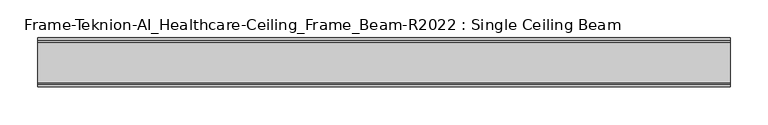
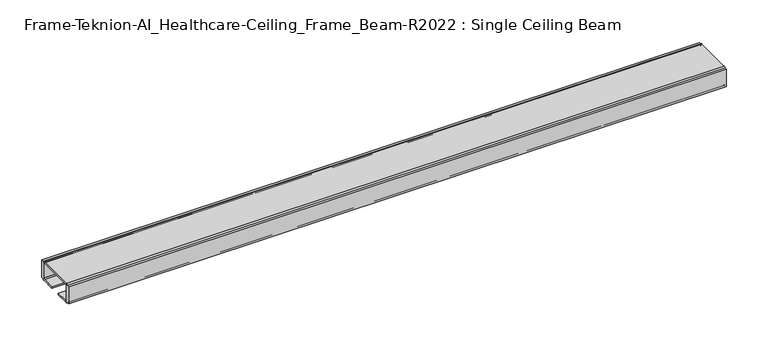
"""IFC4 building model written with IfcOpenShell, lengths in millimetres: furniture geometry, Frame-Teknion-AI_Healthcare-Ceiling_Frame_Beam-R2022 : Single Ceiling Beam."""

import ifcopenshell
import ifcopenshell.guid

model = None  # the IFC model being written
_history = None  # IfcOwnerHistory: only IFC2X3 demands one
_inside = {}  # id of a spatial element -> (the spatial element, [elements in it])
_under = {}  # id of a project, library or spatial element -> (it, [spatial elements below it])
_declared = {}  # id of a project -> (the project, [libraries it declares])
_typed = {}  # id of a type object -> (the type object, [elements of that type])
_made_of = {}  # id of a material, layer set ... -> (it, [elements and type objects made of it])


def new_model(schema):
    """Start an empty IFC model of exactly this schema.

    Asked for "IFC4X3", IfcOpenShell would pick the latest addendum, in which some entities
    have other attributes; the version numbers below select the first issue.
    IFC2X3 requires an IfcOwnerHistory on every rooted entity: one is made here for all.
    """
    global model, _history
    if schema == "IFC4X3":
        model = ifcopenshell.file(schema_version=(4, 3, 0, 0))
    else:
        model = ifcopenshell.file(schema=schema)
    _inside.clear()
    _under.clear()
    _declared.clear()
    _typed.clear()
    _made_of.clear()
    _history = None
    if model.schema == "IFC2X3":
        org = make("IfcOrganization", Name="unknown")
        user = make(
            "IfcPersonAndOrganization",
            ThePerson=make("IfcPerson", FamilyName="unknown"),
            TheOrganization=org,
        )
        app = make(
            "IfcApplication",
            ApplicationDeveloper=org,
            Version="unknown",
            ApplicationFullName="unknown",
            ApplicationIdentifier="unknown",
        )
        _history = make(
            "IfcOwnerHistory",
            OwningUser=user,
            OwningApplication=app,
            ChangeAction="ADDED",
            CreationDate=0,
        )
    return model


def make(cls, **values):
    """One entity of the class cls with the attributes given. An attribute that is None is left unset."""
    return model.create_entity(
        cls, **{name: value for name, value in values.items() if value is not None}
    )


def rooted(cls, **values):
    """An entity with a GlobalId (a new one), such as an element, a storey or a relation."""
    return make(cls, GlobalId=ifcopenshell.guid.new(), OwnerHistory=_history, **values)


def si_unit(unit_type, name, prefix=None):
    """IfcSIUnit, for example si_unit("LENGTHUNIT", "METRE", prefix="MILLI")."""
    return make("IfcSIUnit", UnitType=unit_type, Prefix=prefix, Name=name)


def assignment(units):
    """IfcUnitAssignment: the units of a project."""
    return None if units is None else make("IfcUnitAssignment", Units=units)


def point(xyz):
    """IfcCartesianPoint."""
    return None if xyz is None else make("IfcCartesianPoint", Coordinates=xyz)


def direction(xyz):
    """IfcDirection."""
    return None if xyz is None else make("IfcDirection", DirectionRatios=xyz)


def frame(location, z_axis=None, x_axis=None):
    """IfcAxis2Placement3D, a coordinate frame: its origin and axes. An axis left out is left unset."""
    return make(
        "IfcAxis2Placement3D",
        Location=point(location),
        Axis=direction(z_axis),
        RefDirection=direction(x_axis),
    )


def frame_2d(location, x_axis=None):
    """IfcAxis2Placement2D, a coordinate frame in the plane: its origin and x axis."""
    return make(
        "IfcAxis2Placement2D", Location=point(location), RefDirection=direction(x_axis)
    )


def origin():
    """The frame at (0, 0, 0) with its axes left unset."""
    return frame((0.0, 0.0, 0.0))


def place(relative_to, where):
    """IfcLocalPlacement: puts the frame where relative to a parent placement (None: the world)."""
    return make(
        "IfcLocalPlacement", PlacementRelTo=relative_to, RelativePlacement=where
    )


def context(
    kind, dimensions, precision=None, world=None, true_north=None, identifier=None
):
    """IfcGeometricRepresentationContext, for example the 3D "Model" context."""
    return make(
        "IfcGeometricRepresentationContext",
        ContextIdentifier=identifier,
        ContextType=kind,
        CoordinateSpaceDimension=dimensions,
        Precision=precision,
        WorldCoordinateSystem=world,
        TrueNorth=true_north,
    )


def project(units=None, contexts=None):
    """IfcProject with its units and contexts."""
    return rooted(
        "IfcProject",
        Name="project",
        RepresentationContexts=contexts,
        UnitsInContext=assignment(units),
    )


def spatial(cls, under=None, at=None, **own):
    """A site, building, storey or space (cls), placed at a placement, below another one or the project."""
    s = rooted(cls, ObjectPlacement=at, **own)
    if under is not None:
        _under.setdefault(under.id(), (under, []))[1].append(s)
    return s


def polyline(points):
    """IfcPolyline through the points."""
    return make("IfcPolyline", Points=[point(p) for p in points])


def circle_curve(where, radius):
    """IfcCircle in the frame where."""
    return make("IfcCircle", Position=where, Radius=radius)


def trimmed(basis, trim1, trim2, sense, master):
    """IfcTrimmedCurve: the piece of a basis curve between two trims."""
    return make(
        "IfcTrimmedCurve",
        BasisCurve=basis,
        Trim1=trim1,
        Trim2=trim2,
        SenseAgreement=sense,
        MasterRepresentation=master,
    )


def segment(curve, same_sense, transition):
    """IfcCompositeCurveSegment."""
    return make(
        "IfcCompositeCurveSegment",
        Transition=transition,
        SameSense=same_sense,
        ParentCurve=curve,
    )


def composite_curve(segments, self_intersect=None):
    """IfcCompositeCurve: segments joined end to end."""
    return make("IfcCompositeCurve", Segments=segments, SelfIntersect=self_intersect)


def outline(outer, holes=None, kind="AREA"):
    """IfcArbitraryClosedProfileDef: a profile drawn as a closed curve; with holes, ...WithVoids."""
    if holes is None:
        return make("IfcArbitraryClosedProfileDef", ProfileType=kind, OuterCurve=outer)
    return make(
        "IfcArbitraryProfileDefWithVoids",
        ProfileType=kind,
        OuterCurve=outer,
        InnerCurves=holes,
    )


def extrude(swept, where, along, depth):
    """IfcExtrudedAreaSolid: the profile swept, set in the frame where, extruded along a direction by depth."""
    return make(
        "IfcExtrudedAreaSolid",
        SweptArea=swept,
        Position=where,
        ExtrudedDirection=direction(along),
        Depth=depth,
    )


def shape(context_of_items, identifier, shape_type, items):
    """IfcShapeRepresentation: the items that make up one representation, for example the "Body"."""
    return make(
        "IfcShapeRepresentation",
        ContextOfItems=context_of_items,
        RepresentationIdentifier=identifier,
        RepresentationType=shape_type,
        Items=items,
    )


def source(mapping_origin, context_of_items, identifier, shape_type, items):
    """IfcRepresentationMap: a shape defined once, which mapped items show again and again."""
    return make(
        "IfcRepresentationMap",
        MappingOrigin=mapping_origin,
        MappedRepresentation=shape(context_of_items, identifier, shape_type, items),
    )


def transform(
    local_origin,
    x_axis=None,
    y_axis=None,
    z_axis=None,
    scale=None,
    scale2=None,
    scale3=None,
    uniform=True,
):
    """IfcCartesianTransformationOperator3D, or its non-uniform kind. x_axis, y_axis, z_axis: its Axis1, 2, 3."""
    if uniform:
        return make(
            "IfcCartesianTransformationOperator3D",
            Axis1=direction(x_axis),
            Axis2=direction(y_axis),
            LocalOrigin=point(local_origin),
            Scale=scale,
            Axis3=direction(z_axis),
        )
    return make(
        "IfcCartesianTransformationOperator3DnonUniform",
        Axis1=direction(x_axis),
        Axis2=direction(y_axis),
        LocalOrigin=point(local_origin),
        Scale=scale,
        Axis3=direction(z_axis),
        Scale2=scale2,
        Scale3=scale3,
    )


def mapped(mapping_source, mapping_target):
    """IfcMappedItem: shows the shape of a source again, moved by a transform."""
    return make(
        "IfcMappedItem", MappingSource=mapping_source, MappingTarget=mapping_target
    )


def made_of(thing, what):
    """Note that an element or type object is made of a material, layer set ...; save() writes the relation."""
    if what is not None:
        _made_of.setdefault(what.id(), (what, []))[1].append(thing)
    return thing


def element(
    cls,
    number,
    at=None,
    inside=None,
    cuts=None,
    type_object=None,
    material=None,
    context=None,
    identifier="Body",
    shape_type=None,
    held_by="IfcProductDefinitionShape",
    body=None,
    shapes=None,
    **own,
):
    """One element of the class cls, such as IfcWall. Its Tag is "e" and its number.

    at: its placement. inside: the storey or other place that contains it. cuts: it is an
    opening in that element (IfcRelVoidsElement). A single representation is given by context,
    identifier, shape_type and body (its items); several are given by shapes. held_by: the class
    of the entity that holds the representations. save() writes the other relations.
    """
    e = rooted(cls, Tag="e%d" % number, ObjectPlacement=at, **own)
    if body is not None:
        shapes = [shape(context, identifier, shape_type, body)]
    if shapes is not None:
        e.Representation = make(held_by, Representations=shapes)
    if inside is not None:
        _inside.setdefault(inside.id(), (inside, []))[1].append(e)
    if cuts is not None:
        rooted(
            "IfcRelVoidsElement", RelatingBuildingElement=cuts, RelatedOpeningElement=e
        )
    if type_object is not None:
        _typed.setdefault(type_object.id(), (type_object, []))[1].append(e)
    return made_of(e, material)


def aggregate(whole, parts):
    """IfcRelAggregates: a whole, such as a stair, and the parts it consists of."""
    return rooted("IfcRelAggregates", RelatingObject=whole, RelatedObjects=parts)


def save(model, path):
    """Write the relations noted so far, then the file.

    IfcRelAggregates (storeys below a building ...), IfcRelContainedInSpatialStructure (elements
    in a storey), IfcRelDefinesByType, IfcRelAssociatesMaterial and IfcRelDeclares: one each for
    every whole, place, type object, material and project.
    """
    for whole, parts in _under.values():
        aggregate(whole, parts)
    for where, things in _inside.values():
        rooted(
            "IfcRelContainedInSpatialStructure",
            RelatedElements=things,
            RelatingStructure=where,
        )
    for kind, things in _typed.values():
        rooted("IfcRelDefinesByType", RelatedObjects=things, RelatingType=kind)
    for what, things in _made_of.values():
        rooted("IfcRelAssociatesMaterial", RelatedObjects=things, RelatingMaterial=what)
    for by, libraries in _declared.values():
        rooted("IfcRelDeclares", RelatingContext=by, RelatedDefinitions=libraries)
    model.write(path)


def frame_teknion_ai_healthcare_ceiling_frame_beam_r2022_single_cd011384(model_context):
    return source(origin(), model_context, "Body", "SweptSolid", [
        extrude(outline(composite_curve([segment(polyline([(-32.174996, 1573.5046), (-32.174996, 1598.9045998), (-28.999999, 1598.9045998), (-28.999999, 1597.787)]), True, "CONTINUOUS"), segment(trimmed(circle_curve(frame_2d((-26.5869991, 1597.787)), 2.413), [point((-28.999999, 1597.787))], [point((-26.5869991, 1600.2))], False, "CARTESIAN"), True, "CONTINUOUS"), segment(polyline([(-26.5869991, 1600.2), (26.5869991, 1600.2)]), True, "CONTINUOUS"), segment(trimmed(circle_curve(frame_2d((26.5869991, 1597.787)), 2.413), [point((26.5869991, 1600.2))], [point((28.999999, 1597.787))], False, "CARTESIAN"), True, "CONTINUOUS"), segment(polyline([(28.999999, 1597.787), (28.999999, 1598.9045998), (32.174996, 1598.9045998), (32.174996, 1573.5046), (28.999999, 1573.5046), (28.999999, 1574.6129989)]), True, "CONTINUOUS"), segment(trimmed(circle_curve(frame_2d((26.5869991, 1574.6129989)), 2.413), [point((28.999999, 1574.6129989))], [point((26.5869991, 1572.199999))], False, "CARTESIAN"), True, "CONTINUOUS"), segment(polyline([(26.5869991, 1572.199999), (7.9374947, 1572.199999), (7.9374947, 1574.4859991), (25.4440002, 1574.4859991)]), True, "CONTINUOUS"), segment(trimmed(circle_curve(frame_2d((25.4440002, 1576.0099999)), 1.5240008), [point((25.4440002, 1574.4859991))], [point((26.968001, 1576.0099999))], True, "CARTESIAN"), True, "CONTINUOUS"), segment(polyline([(26.968001, 1576.0099999), (26.968001, 1597.1520009)]), True, "CONTINUOUS"), segment(trimmed(circle_curve(frame_2d((25.9520019, 1597.1520009)), 1.015999), [point((26.968001, 1597.1520009))], [point((25.9520019, 1598.168))], True, "CARTESIAN"), True, "CONTINUOUS"), segment(polyline([(25.9520019, 1598.168), (-25.9520019, 1598.168)]), True, "CONTINUOUS"), segment(trimmed(circle_curve(frame_2d((-25.9520019, 1597.1520009)), 1.015999), [point((-25.9520019, 1598.168))], [point((-26.968001, 1597.1520009))], True, "CARTESIAN"), True, "CONTINUOUS"), segment(polyline([(-26.968001, 1597.1520009), (-26.968001, 1576.0099999)]), True, "CONTINUOUS"), segment(trimmed(circle_curve(frame_2d((-25.4440002, 1576.0099999)), 1.5240008), [point((-26.968001, 1576.0099999))], [point((-25.4440002, 1574.4859991))], True, "CARTESIAN"), True, "CONTINUOUS"), segment(polyline([(-25.4440002, 1574.4859991), (-7.9374947, 1574.4859991), (-7.9374947, 1572.199999), (-26.5869991, 1572.199999)]), True, "CONTINUOUS"), segment(trimmed(circle_curve(frame_2d((-26.5869991, 1574.6129989)), 2.413), [point((-26.5869991, 1572.199999))], [point((-28.999999, 1574.6129989))], False, "CARTESIAN"), True, "CONTINUOUS"), segment(polyline([(-28.999999, 1574.6129989), (-28.999999, 1573.5046), (-32.174996, 1573.5046)]), True, "CONTINUOUS")], self_intersect=False)), frame((-455.3204, 0.0, 0.0), z_axis=(1.0, 0.0, 0.0), x_axis=(0.0, 1.0, 0.0)), (0.0, 0.0, 1.0), 910.6408),
    ])


if __name__ == "__main__":
    model = new_model("IFC4")
    model_context = context("Model", 3, world=origin())
    ifc_project = project(units=[si_unit("LENGTHUNIT", "METRE", prefix="MILLI")], contexts=[model_context])
    site = spatial("IfcSite", under=ifc_project)
    building = spatial("IfcBuilding", under=site)
    placement = place(None, origin())
    frame_teknion_ai_healthcare_ceiling_frame_beam_r2022_single_shape = frame_teknion_ai_healthcare_ceiling_frame_beam_r2022_single_cd011384(model_context)
    element("IfcFurniture", 1, ObjectType="Frame-Teknion-AI_Healthcare-Ceiling_Frame_Beam-R2022 : Single Ceiling Beam", at=placement, inside=building, context=model_context, shape_type="MappedRepresentation", body=[
        mapped(frame_teknion_ai_healthcare_ceiling_frame_beam_r2022_single_shape, transform((0.0, 0.0, 0.0), x_axis=(1.0, 0.0, 0.0), y_axis=(0.0, 1.0, 0.0), z_axis=(0.0, 0.0, 1.0))),
    ])
    save(model, "model.ifc")
